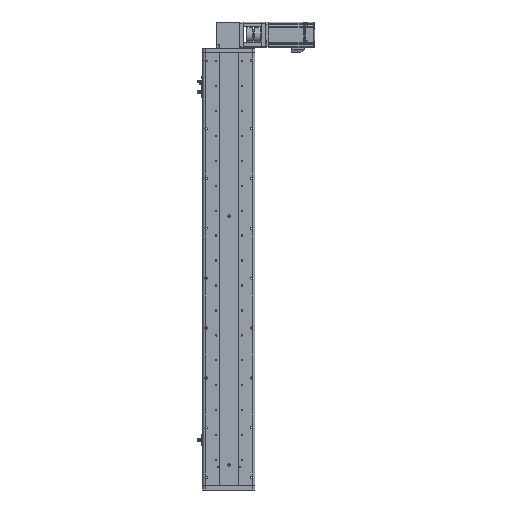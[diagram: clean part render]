
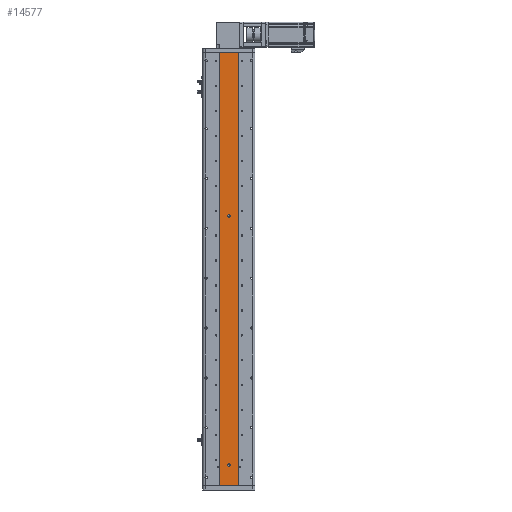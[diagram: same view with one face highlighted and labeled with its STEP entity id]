
A CAD part, front view. The second image highlights one B-rep face of the part: STEP entity #14577.
In plain terms, the highlighted planar face has unit normal (0, -1, 0).
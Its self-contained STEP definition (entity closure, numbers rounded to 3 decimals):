
#1068 = CARTESIAN_POINT ( 'NONE',  ( -23., 1., -522. ) ) ;
#1285 = FACE_BOUND ( 'NONE', #18950, .T. ) ;
#3187 = ORIENTED_EDGE ( 'NONE', *, *, #26734, .F. ) ;
#3477 = CARTESIAN_POINT ( 'NONE',  ( 23., 1., 522. ) ) ;
#3655 = ORIENTED_EDGE ( 'NONE', *, *, #42362, .F. ) ;
#4513 = VERTEX_POINT ( 'NONE', #18828 ) ;
#5005 = ORIENTED_EDGE ( 'NONE', *, *, #26452, .F. ) ;
#6901 = EDGE_LOOP ( 'NONE', ( #16653, #21937, #3187, #14605 ) ) ;
#9333 = DIRECTION ( 'NONE',  ( 1., 0., 0. ) ) ;
#9911 = VECTOR ( 'NONE', #9333, 1000. ) ;
#10071 = CARTESIAN_POINT ( 'NONE',  ( 23., 1., 522.001 ) ) ;
#10492 = DIRECTION ( 'NONE',  ( 0., 0., -1. ) ) ;
#11712 = VECTOR ( 'NONE', #10492, 1000. ) ;
#12285 = ORIENTED_EDGE ( 'NONE', *, *, #13816, .F. ) ;
#12596 = FACE_OUTER_BOUND ( 'NONE', #6901, .T. ) ;
#13816 = EDGE_CURVE ( 'NONE', #60357, #36224, #27680, .T. ) ;
#14577 = ADVANCED_FACE ( 'NONE', ( #1285, #62087, #12596 ), #15730, .F. ) ;
#14605 = ORIENTED_EDGE ( 'NONE', *, *, #60869, .F. ) ;
#15730 = PLANE ( 'NONE',  #22507 ) ;
#16210 = DIRECTION ( 'NONE',  ( 0., -1., 0. ) ) ;
#16653 = ORIENTED_EDGE ( 'NONE', *, *, #46181, .T. ) ;
#17007 = EDGE_LOOP ( 'NONE', ( #3655, #28799 ) ) ;
#17301 = DIRECTION ( 'NONE',  ( 0., -1., 0. ) ) ;
#18828 = CARTESIAN_POINT ( 'NONE',  ( -23., 1., 522. ) ) ;
#18950 = EDGE_LOOP ( 'NONE', ( #5005, #12285 ) ) ;
#19728 = CIRCLE ( 'NONE', #52399, 3. ) ;
#19992 = CIRCLE ( 'NONE', #21198, 3. ) ;
#20000 = DIRECTION ( 'NONE',  ( 0., -1., 0. ) ) ;
#21198 = AXIS2_PLACEMENT_3D ( 'NONE', #45932, #17301, #50833 ) ;
#21937 = ORIENTED_EDGE ( 'NONE', *, *, #45695, .T. ) ;
#21946 = CARTESIAN_POINT ( 'NONE',  ( 0., 1., -472. ) ) ;
#22282 = LINE ( 'NONE', #61704, #43089 ) ;
#22507 = AXIS2_PLACEMENT_3D ( 'NONE', #49235, #58694, #54060 ) ;
#22748 = LINE ( 'NONE', #52322, #9911 ) ;
#22879 = VERTEX_POINT ( 'NONE', #57833 ) ;
#24367 = VERTEX_POINT ( 'NONE', #3477 ) ;
#26452 = EDGE_CURVE ( 'NONE', #36224, #60357, #19992, .T. ) ;
#26664 = CARTESIAN_POINT ( 'NONE',  ( -23., 1., 522.001 ) ) ;
#26734 = EDGE_CURVE ( 'NONE', #24367, #22879, #49958, .T. ) ;
#26741 = DIRECTION ( 'NONE',  ( 0., 0., -1. ) ) ;
#27680 = CIRCLE ( 'NONE', #57332, 3. ) ;
#28110 = DIRECTION ( 'NONE',  ( 1., 0., 0. ) ) ;
#28799 = ORIENTED_EDGE ( 'NONE', *, *, #45480, .F. ) ;
#31419 = DIRECTION ( 'NONE',  ( 0., 0., -1. ) ) ;
#34371 = VERTEX_POINT ( 'NONE', #55169 ) ;
#35803 = VERTEX_POINT ( 'NONE', #48217 ) ;
#36224 = VERTEX_POINT ( 'NONE', #60838 ) ;
#39410 = VECTOR ( 'NONE', #31419, 1000. ) ;
#42362 = EDGE_CURVE ( 'NONE', #34371, #35803, #19728, .T. ) ;
#43089 = VECTOR ( 'NONE', #28110, 1000. ) ;
#44793 = CARTESIAN_POINT ( 'NONE',  ( 0., 1., 128. ) ) ;
#45480 = EDGE_CURVE ( 'NONE', #35803, #34371, #61265, .T. ) ;
#45695 = EDGE_CURVE ( 'NONE', #49748, #22879, #22282, .T. ) ;
#45747 = AXIS2_PLACEMENT_3D ( 'NONE', #21946, #55458, #26741 ) ;
#45932 = CARTESIAN_POINT ( 'NONE',  ( 0., 1., 128. ) ) ;
#46181 = EDGE_CURVE ( 'NONE', #4513, #49748, #53717, .T. ) ;
#48217 = CARTESIAN_POINT ( 'NONE',  ( 0., 1., -469. ) ) ;
#48352 = CARTESIAN_POINT ( 'NONE',  ( 0., 1., 131. ) ) ;
#48672 = CARTESIAN_POINT ( 'NONE',  ( 0., 1., -472. ) ) ;
#49235 = CARTESIAN_POINT ( 'NONE',  ( 23., 1., 522.001 ) ) ;
#49721 = DIRECTION ( 'NONE',  ( 0., 0., -1. ) ) ;
#49748 = VERTEX_POINT ( 'NONE', #1068 ) ;
#49958 = LINE ( 'NONE', #10071, #11712 ) ;
#50833 = DIRECTION ( 'NONE',  ( 0., 0., -1. ) ) ;
#52322 = CARTESIAN_POINT ( 'NONE',  ( 23., 1., 522. ) ) ;
#52399 = AXIS2_PLACEMENT_3D ( 'NONE', #48672, #20000, #53503 ) ;
#53503 = DIRECTION ( 'NONE',  ( 0., 0., -1. ) ) ;
#53717 = LINE ( 'NONE', #26664, #39410 ) ;
#54060 = DIRECTION ( 'NONE',  ( 0., 0., 1. ) ) ;
#55169 = CARTESIAN_POINT ( 'NONE',  ( 0., 1., -475. ) ) ;
#55458 = DIRECTION ( 'NONE',  ( 0., -1., 0. ) ) ;
#57332 = AXIS2_PLACEMENT_3D ( 'NONE', #44793, #16210, #49721 ) ;
#57833 = CARTESIAN_POINT ( 'NONE',  ( 23., 1., -522. ) ) ;
#58694 = DIRECTION ( 'NONE',  ( 0., 1., 0. ) ) ;
#60357 = VERTEX_POINT ( 'NONE', #48352 ) ;
#60838 = CARTESIAN_POINT ( 'NONE',  ( 0., 1., 125. ) ) ;
#60869 = EDGE_CURVE ( 'NONE', #4513, #24367, #22748, .T. ) ;
#61265 = CIRCLE ( 'NONE', #45747, 3. ) ;
#61704 = CARTESIAN_POINT ( 'NONE',  ( 23., 1., -522. ) ) ;
#62087 = FACE_BOUND ( 'NONE', #17007, .T. ) ;
